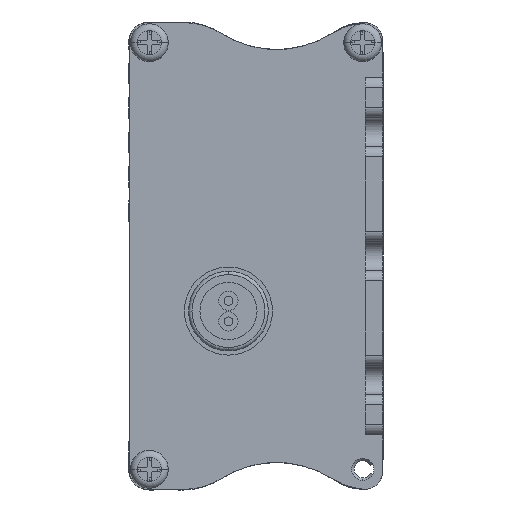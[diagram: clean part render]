
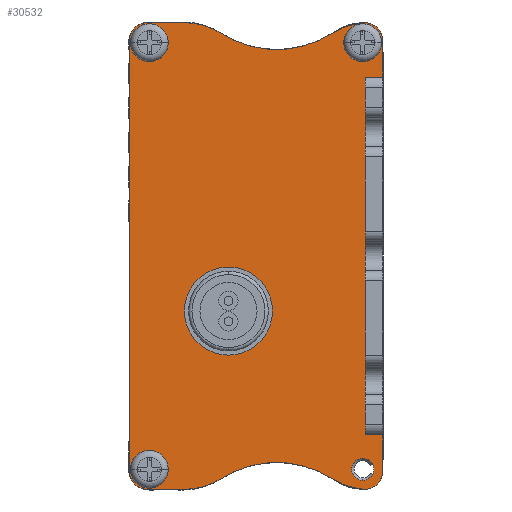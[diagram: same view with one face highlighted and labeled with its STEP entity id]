
A CAD part, left-side view. The second image highlights one B-rep face of the part: STEP entity #30532.
In plain terms, the highlighted planar face has unit normal (-1, 0, 0) as drawn and (1, 0, 0) by its records, which use the part's own axes.
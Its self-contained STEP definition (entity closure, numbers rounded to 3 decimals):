
#29655=CARTESIAN_POINT('',(2.5,22.4,8.));
#29656=DIRECTION('',(-1.,0.,0.));
#29657=DIRECTION('',(0.,1.,0.));
#29658=AXIS2_PLACEMENT_3D('',#29655,#29656,#29657);
#29660=CARTESIAN_POINT('',(2.5,22.4,8.));
#29661=DIRECTION('',(-1.,0.,0.));
#29662=DIRECTION('',(0.,-1.,0.));
#29663=AXIS2_PLACEMENT_3D('',#29660,#29661,#29662);
#29665=CARTESIAN_POINT('',(2.5,28.809,-23.9));
#29666=DIRECTION('',(1.,0.,0.));
#29667=DIRECTION('',(0.,-0.536,-0.844));
#29668=AXIS2_PLACEMENT_3D('',#29665,#29666,#29667);
#29670=CARTESIAN_POINT('',(2.5,15.4,-45.));
#29671=DIRECTION('',(1.,0.,0.));
#29672=DIRECTION('',(0.,0.536,0.844));
#29673=AXIS2_PLACEMENT_3D('',#29670,#29671,#29672);
#29675=CARTESIAN_POINT('',(2.5,1.959,-23.921));
#29676=DIRECTION('',(1.,0.,0.));
#29677=DIRECTION('',(0.,0.064,-0.998));
#29678=AXIS2_PLACEMENT_3D('',#29675,#29676,#29677);
#29680=CARTESIAN_POINT('',(2.5,2.6,-31.3));
#29681=DIRECTION('',(1.,0.,0.));
#29682=DIRECTION('',(0.,-1.,0.));
#29683=AXIS2_PLACEMENT_3D('',#29680,#29681,#29682);
#29685=DIRECTION('',(0.,0.,-1.));
#29686=VECTOR('',#29685,5.3);
#29687=CARTESIAN_POINT('',(2.5,0.,-26.));
#29688=LINE('',#29687,#29686);
#29689=DIRECTION('',(0.,1.,0.));
#29690=VECTOR('',#29689,2.5);
#29691=CARTESIAN_POINT('',(2.5,0.,26.));
#29692=LINE('',#29691,#29690);
#29693=DIRECTION('',(0.,0.,-1.));
#29694=VECTOR('',#29693,5.3);
#29695=CARTESIAN_POINT('',(2.5,0.,31.3));
#29696=LINE('',#29695,#29694);
#29697=CARTESIAN_POINT('',(2.5,2.6,31.3));
#29698=DIRECTION('',(1.,0.,0.));
#29699=DIRECTION('',(0.,0.,1.));
#29700=AXIS2_PLACEMENT_3D('',#29697,#29698,#29699);
#29702=CARTESIAN_POINT('',(2.5,1.959,23.921));
#29703=DIRECTION('',(1.,0.,0.));
#29704=DIRECTION('',(0.,0.538,0.843));
#29705=AXIS2_PLACEMENT_3D('',#29702,#29703,#29704);
#29707=CARTESIAN_POINT('',(2.5,15.4,45.));
#29708=DIRECTION('',(1.,0.,0.));
#29709=DIRECTION('',(0.,-0.538,-0.843));
#29710=AXIS2_PLACEMENT_3D('',#29707,#29708,#29709);
#29712=CARTESIAN_POINT('',(2.5,28.809,23.9));
#29713=DIRECTION('',(1.,0.,0.));
#29714=DIRECTION('',(0.,0.,1.));
#29715=AXIS2_PLACEMENT_3D('',#29712,#29713,#29714);
#29717=DIRECTION('',(0.,-1.,0.));
#29718=VECTOR('',#29717,5.391);
#29719=CARTESIAN_POINT('',(2.5,34.2,33.9));
#29720=LINE('',#29719,#29718);
#29721=CARTESIAN_POINT('',(2.5,34.2,31.3));
#29722=DIRECTION('',(1.,0.,0.));
#29723=DIRECTION('',(0.,1.,0.));
#29724=AXIS2_PLACEMENT_3D('',#29721,#29722,#29723);
#29726=DIRECTION('',(0.,0.,1.));
#29727=VECTOR('',#29726,62.6);
#29728=CARTESIAN_POINT('',(2.5,36.8,-31.3));
#29729=LINE('',#29728,#29727);
#29730=CARTESIAN_POINT('',(2.5,34.2,-31.3));
#29731=DIRECTION('',(1.,0.,0.));
#29732=DIRECTION('',(0.,0.,-1.));
#29733=AXIS2_PLACEMENT_3D('',#29730,#29731,#29732);
#29735=CARTESIAN_POINT('',(2.5,2.9,31.));
#29736=DIRECTION('',(-1.,0.,0.));
#29737=DIRECTION('',(0.,0.,-1.));
#29738=AXIS2_PLACEMENT_3D('',#29735,#29736,#29737);
#29740=CARTESIAN_POINT('',(2.5,2.9,31.));
#29741=DIRECTION('',(-1.,0.,0.));
#29742=DIRECTION('',(0.,0.,1.));
#29743=AXIS2_PLACEMENT_3D('',#29740,#29741,#29742);
#29745=CARTESIAN_POINT('',(2.5,33.9,31.));
#29746=DIRECTION('',(-1.,0.,0.));
#29747=DIRECTION('',(0.,0.,-1.));
#29748=AXIS2_PLACEMENT_3D('',#29745,#29746,#29747);
#29750=CARTESIAN_POINT('',(2.5,33.9,31.));
#29751=DIRECTION('',(-1.,0.,0.));
#29752=DIRECTION('',(0.,0.,1.));
#29753=AXIS2_PLACEMENT_3D('',#29750,#29751,#29752);
#29755=CARTESIAN_POINT('',(2.5,33.9,-31.));
#29756=DIRECTION('',(-1.,0.,0.));
#29757=DIRECTION('',(0.,0.,-1.));
#29758=AXIS2_PLACEMENT_3D('',#29755,#29756,#29757);
#29760=CARTESIAN_POINT('',(2.5,33.9,-31.));
#29761=DIRECTION('',(-1.,0.,0.));
#29762=DIRECTION('',(0.,0.,1.));
#29763=AXIS2_PLACEMENT_3D('',#29760,#29761,#29762);
#29765=CARTESIAN_POINT('',(2.5,2.9,-31.));
#29766=DIRECTION('',(-1.,0.,0.));
#29767=DIRECTION('',(0.,0.,-1.));
#29768=AXIS2_PLACEMENT_3D('',#29765,#29766,#29767);
#29770=CARTESIAN_POINT('',(2.5,2.9,-31.));
#29771=DIRECTION('',(-1.,0.,0.));
#29772=DIRECTION('',(0.,0.,1.));
#29773=AXIS2_PLACEMENT_3D('',#29770,#29771,#29772);
#29903=DIRECTION('',(0.,0.,1.));
#29904=VECTOR('',#29903,52.);
#29905=CARTESIAN_POINT('',(2.5,2.5,-26.));
#29906=LINE('',#29905,#29904);
#30013=DIRECTION('',(0.,1.,0.));
#30014=VECTOR('',#30013,2.5);
#30015=CARTESIAN_POINT('',(2.5,0.,-26.));
#30016=LINE('',#30015,#30014);
#30113=DIRECTION('',(0.,-1.,0.));
#30114=VECTOR('',#30113,5.391);
#30115=CARTESIAN_POINT('',(2.5,34.2,-33.9));
#30116=LINE('',#30115,#30114);
#30174=CARTESIAN_POINT('',(2.5,36.8,-31.3));
#30176=VERTEX_POINT('',#30174);
#30177=CARTESIAN_POINT('',(2.5,28.809,33.9));
#30179=VERTEX_POINT('',#30177);
#30182=CARTESIAN_POINT('',(2.5,34.2,33.9));
#30184=VERTEX_POINT('',#30182);
#30185=CARTESIAN_POINT('',(2.5,36.8,31.3));
#30187=VERTEX_POINT('',#30185);
#30190=CARTESIAN_POINT('',(2.5,2.6,-33.9));
#30192=VERTEX_POINT('',#30190);
#30194=CARTESIAN_POINT('',(2.5,23.445,32.34));
#30196=VERTEX_POINT('',#30194);
#30197=CARTESIAN_POINT('',(2.5,2.6,33.9));
#30199=VERTEX_POINT('',#30197);
#30201=CARTESIAN_POINT('',(2.5,7.335,32.352));
#30203=VERTEX_POINT('',#30201);
#30205=CARTESIAN_POINT('',(2.5,7.335,-32.352));
#30207=VERTEX_POINT('',#30205);
#30210=CARTESIAN_POINT('',(2.5,23.445,-32.34));
#30212=VERTEX_POINT('',#30210);
#30225=CARTESIAN_POINT('',(2.5,2.9,-32.6));
#30226=VERTEX_POINT('',#30225);
#30227=CARTESIAN_POINT('',(2.5,2.9,-29.4));
#30228=VERTEX_POINT('',#30227);
#30233=CARTESIAN_POINT('',(2.5,2.9,29.4));
#30234=VERTEX_POINT('',#30233);
#30235=CARTESIAN_POINT('',(2.5,2.9,32.6));
#30236=VERTEX_POINT('',#30235);
#30237=CARTESIAN_POINT('',(2.5,33.9,-32.6));
#30238=VERTEX_POINT('',#30237);
#30239=CARTESIAN_POINT('',(2.5,33.9,-29.4));
#30240=VERTEX_POINT('',#30239);
#30241=CARTESIAN_POINT('',(2.5,33.9,29.4));
#30242=VERTEX_POINT('',#30241);
#30243=CARTESIAN_POINT('',(2.5,33.9,32.6));
#30244=VERTEX_POINT('',#30243);
#30245=CARTESIAN_POINT('',(2.5,28.809,-33.9));
#30246=VERTEX_POINT('',#30245);
#30247=CARTESIAN_POINT('',(2.5,34.2,-33.9));
#30248=VERTEX_POINT('',#30247);
#30249=CARTESIAN_POINT('',(2.5,0.,31.3));
#30250=VERTEX_POINT('',#30249);
#30251=CARTESIAN_POINT('',(2.5,0.,26.));
#30252=VERTEX_POINT('',#30251);
#30253=CARTESIAN_POINT('',(2.5,2.5,26.));
#30254=VERTEX_POINT('',#30253);
#30255=CARTESIAN_POINT('',(2.5,2.5,-26.));
#30256=VERTEX_POINT('',#30255);
#30257=CARTESIAN_POINT('',(2.5,0.,-26.));
#30258=VERTEX_POINT('',#30257);
#30259=CARTESIAN_POINT('',(2.5,0.,-31.3));
#30260=VERTEX_POINT('',#30259);
#30269=CARTESIAN_POINT('',(2.5,28.8,8.));
#30270=CARTESIAN_POINT('',(2.5,16.,8.));
#30271=VERTEX_POINT('',#30269);
#30272=VERTEX_POINT('',#30270);
#30461=CARTESIAN_POINT('',(2.5,36.8,33.9));
#30462=DIRECTION('',(-1.,0.,0.));
#30463=DIRECTION('',(0.,-1.,0.));
#30464=AXIS2_PLACEMENT_3D('',#30461,#30462,#30463);
#30465=PLANE('',#30464);
#30467=ORIENTED_EDGE('',*,*,#30466,.F.);
#30469=ORIENTED_EDGE('',*,*,#30468,.T.);
#30471=ORIENTED_EDGE('',*,*,#30470,.F.);
#30473=ORIENTED_EDGE('',*,*,#30472,.F.);
#30475=ORIENTED_EDGE('',*,*,#30474,.F.);
#30477=ORIENTED_EDGE('',*,*,#30476,.T.);
#30479=ORIENTED_EDGE('',*,*,#30478,.T.);
#30481=ORIENTED_EDGE('',*,*,#30480,.F.);
#30483=ORIENTED_EDGE('',*,*,#30482,.F.);
#30485=ORIENTED_EDGE('',*,*,#30484,.F.);
#30487=ORIENTED_EDGE('',*,*,#30486,.F.);
#30489=ORIENTED_EDGE('',*,*,#30488,.T.);
#30490=ORIENTED_EDGE('',*,*,#30374,.F.);
#30492=ORIENTED_EDGE('',*,*,#30491,.F.);
#30494=ORIENTED_EDGE('',*,*,#30493,.F.);
#30496=ORIENTED_EDGE('',*,*,#30495,.F.);
#30498=ORIENTED_EDGE('',*,*,#30497,.F.);
#30500=ORIENTED_EDGE('',*,*,#30499,.T.);
#30501=EDGE_LOOP('',(#30467,#30469,#30471,#30473,#30475,#30477,#30479,#30481,
#30483,#30485,#30487,#30489,#30490,#30492,#30494,#30496,#30498,#30500));
#30502=FACE_OUTER_BOUND('',#30501,.F.);
#30503=ORIENTED_EDGE('',*,*,#30451,.F.);
#30505=ORIENTED_EDGE('',*,*,#30504,.F.);
#30506=EDGE_LOOP('',(#30503,#30505));
#30507=FACE_BOUND('',#30506,.F.);
#30509=ORIENTED_EDGE('',*,*,#30508,.F.);
#30511=ORIENTED_EDGE('',*,*,#30510,.F.);
#30512=EDGE_LOOP('',(#30509,#30511));
#30513=FACE_BOUND('',#30512,.F.);
#30515=ORIENTED_EDGE('',*,*,#30514,.F.);
#30517=ORIENTED_EDGE('',*,*,#30516,.F.);
#30518=EDGE_LOOP('',(#30515,#30517));
#30519=FACE_BOUND('',#30518,.F.);
#30521=ORIENTED_EDGE('',*,*,#30520,.F.);
#30523=ORIENTED_EDGE('',*,*,#30522,.F.);
#30524=EDGE_LOOP('',(#30521,#30523));
#30525=FACE_BOUND('',#30524,.F.);
#30527=ORIENTED_EDGE('',*,*,#30526,.F.);
#30529=ORIENTED_EDGE('',*,*,#30528,.F.);
#30530=EDGE_LOOP('',(#30527,#30529));
#30531=FACE_BOUND('',#30530,.F.);
#29659=CIRCLE('',#29658,6.4);
#29664=CIRCLE('',#29663,6.4);
#29669=CIRCLE('',#29668,10.);
#29674=CIRCLE('',#29673,15.);
#29679=CIRCLE('',#29678,10.);
#29684=CIRCLE('',#29683,2.6);
#29701=CIRCLE('',#29700,2.6);
#29706=CIRCLE('',#29705,10.);
#29711=CIRCLE('',#29710,15.);
#29716=CIRCLE('',#29715,10.);
#29725=CIRCLE('',#29724,2.6);
#29734=CIRCLE('',#29733,2.6);
#29739=CIRCLE('',#29738,1.6);
#29744=CIRCLE('',#29743,1.6);
#29749=CIRCLE('',#29748,1.6);
#29754=CIRCLE('',#29753,1.6);
#29759=CIRCLE('',#29758,1.6);
#29764=CIRCLE('',#29763,1.6);
#29769=CIRCLE('',#29768,1.6);
#29774=CIRCLE('',#29773,1.6);
#30374=EDGE_CURVE('',#30179,#30196,#29716,.T.);
#30451=EDGE_CURVE('',#30271,#30272,#29659,.T.);
#30466=EDGE_CURVE('',#30212,#30246,#29669,.T.);
#30468=EDGE_CURVE('',#30212,#30207,#29674,.T.);
#30470=EDGE_CURVE('',#30192,#30207,#29679,.T.);
#30472=EDGE_CURVE('',#30260,#30192,#29684,.T.);
#30474=EDGE_CURVE('',#30258,#30260,#29688,.T.);
#30476=EDGE_CURVE('',#30258,#30256,#30016,.T.);
#30478=EDGE_CURVE('',#30256,#30254,#29906,.T.);
#30480=EDGE_CURVE('',#30252,#30254,#29692,.T.);
#30482=EDGE_CURVE('',#30250,#30252,#29696,.T.);
#30484=EDGE_CURVE('',#30199,#30250,#29701,.T.);
#30486=EDGE_CURVE('',#30203,#30199,#29706,.T.);
#30488=EDGE_CURVE('',#30203,#30196,#29711,.T.);
#30491=EDGE_CURVE('',#30184,#30179,#29720,.T.);
#30493=EDGE_CURVE('',#30187,#30184,#29725,.T.);
#30495=EDGE_CURVE('',#30176,#30187,#29729,.T.);
#30497=EDGE_CURVE('',#30248,#30176,#29734,.T.);
#30499=EDGE_CURVE('',#30248,#30246,#30116,.T.);
#30504=EDGE_CURVE('',#30272,#30271,#29664,.T.);
#30508=EDGE_CURVE('',#30234,#30236,#29739,.T.);
#30510=EDGE_CURVE('',#30236,#30234,#29744,.T.);
#30514=EDGE_CURVE('',#30242,#30244,#29749,.T.);
#30516=EDGE_CURVE('',#30244,#30242,#29754,.T.);
#30520=EDGE_CURVE('',#30238,#30240,#29759,.T.);
#30522=EDGE_CURVE('',#30240,#30238,#29764,.T.);
#30526=EDGE_CURVE('',#30226,#30228,#29769,.T.);
#30528=EDGE_CURVE('',#30228,#30226,#29774,.T.);
#30532=ADVANCED_FACE('',(#30502,#30507,#30513,#30519,#30525,#30531),#30465,.F.);
